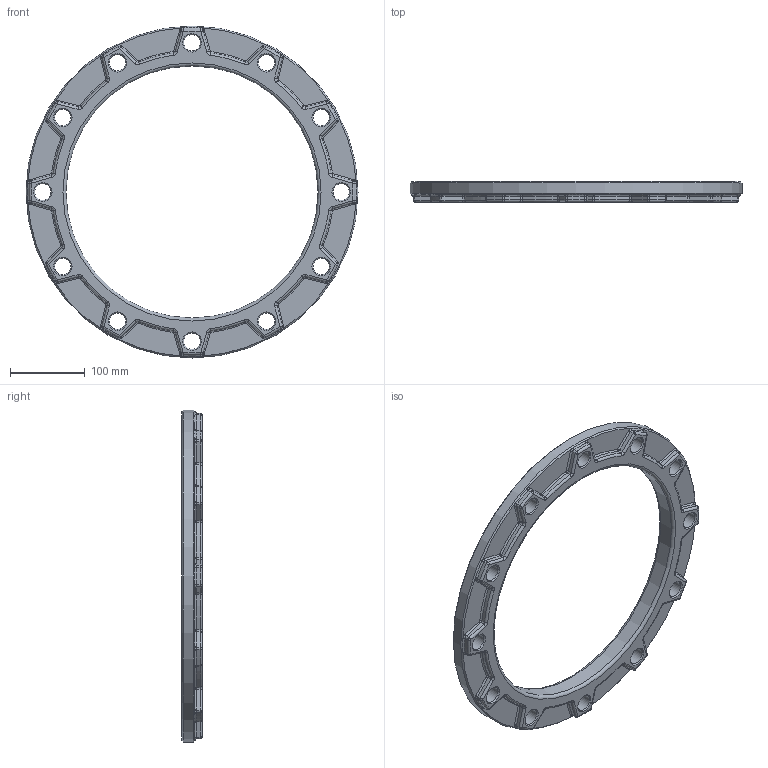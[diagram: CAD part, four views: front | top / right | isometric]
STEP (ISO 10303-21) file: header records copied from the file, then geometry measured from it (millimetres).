
FILE_DESCRIPTION(/* description */ ('Unknown'),/* implementation_level */ '2;1');
FILE_NAME(/* name */ 'FA315B',/* time_stamp */ '2022-07-21T11:57:32+02:00',/* author */ ('Unknown'),/* organization */ ('Unknown'),/* preprocessor_version */ 'ST-DEVELOPER v18.102',/* originating_system */ 'Solid Edge',/* authorisation */ 'Unknown');
FILE_SCHEMA (('AUTOMOTIVE_DESIGN {1 0 10303 214 3 1 1}'));
Length unit declared in the file: millimetre
Products named in the file (1): FA315B
Bounding box: 445 x 28 x 445 mm (x, y, z)
Volume: 1389150.9 mm3; surface area: 205843 mm2
Topology: 1 solids, 1 shells, 344 faces, 818 edges, 452 vertices
Faces by surface type: cylinder 134, torus 122, plane 38, cone 26, sphere 24
Full cylindrical faces by diameter (mm): 22 x12, 338 x1, 445 x1
Entity records: 9284 total; most frequent: DIRECTION 1928, CARTESIAN_POINT 1475, ORIENTED_EDGE 1430, AXIS2_PLACEMENT_3D 868, EDGE_CURVE 715, CIRCLE 523, VERTEX_POINT 415, EDGE_LOOP 412
